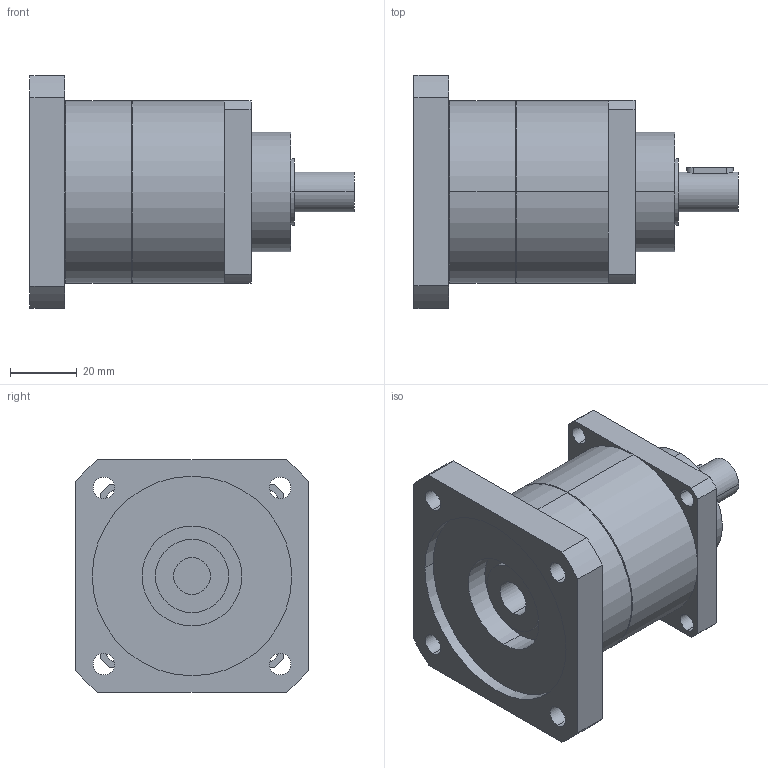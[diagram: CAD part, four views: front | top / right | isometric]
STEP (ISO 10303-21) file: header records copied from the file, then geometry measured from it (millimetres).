
FILE_DESCRIPTION(('CoCreate Modeling STEP Export'),'2;1');
FILE_NAME('GPT55_ig-3-4-5-7-10_12_B5A_11_P04.stp','2014-08-25T14:31:12',(''),(''),'CoCreate Modeling STEP processor for AP214 (Solid Model)','CoCreate Modeling 16.00C 25-Feb-2009 (C) Parametric Technology GmbH','');
FILE_SCHEMA(('AUTOMOTIVE_DESIGN { 1 0 10303 214 1 1 1 1 }'));
Length unit declared in the file: millimetre
Products named in the file (2): GPT55_ig-3-4-5-7-10_12_B5A_11_P04
Assembly tree (1 placements, depth 2):
  GPT55_ig-3-4-5-7-10_12_B5A_11_P04
    GPT55_ig-3-4-5-7-10_12_B5A_11_P04
Bounding box: 97.5 x 70 x 70 mm (x, y, z)
Volume: 185157.5 mm3; surface area: 29382.5 mm2
Topology: 1 solids, 1 shells, 77 faces, 197 edges, 132 vertices
Faces by surface type: cylinder 46, plane 27, cone 4
Entity records: 2480 total; most frequent: CARTESIAN_POINT 703, ORIENTED_EDGE 394, DIRECTION 318, EDGE_CURVE 197, VERTEX_POINT 132, AXIS2_PLACEMENT_3D 117, EDGE_LOOP 103, VECTOR 84
